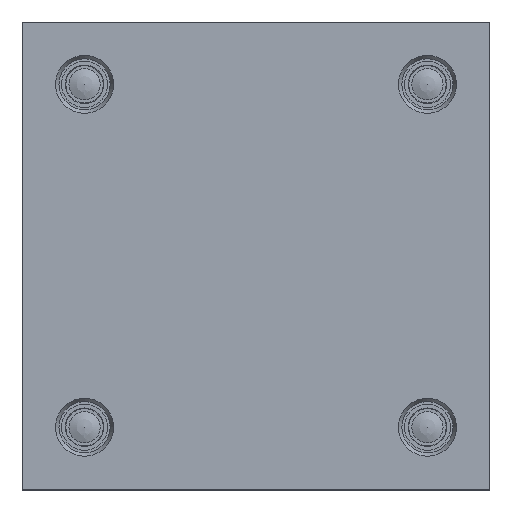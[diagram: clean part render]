
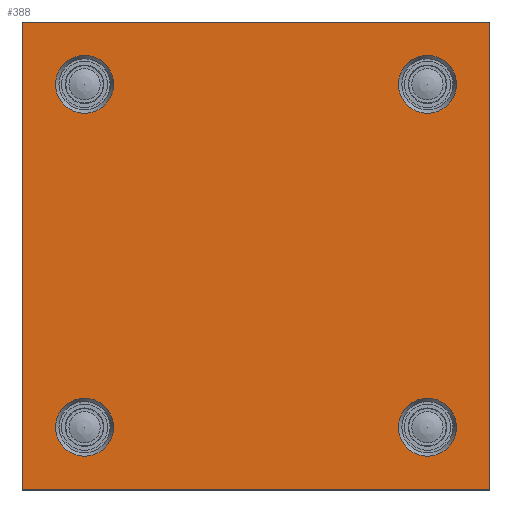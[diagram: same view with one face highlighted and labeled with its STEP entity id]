
A CAD part, top view. The second image highlights one B-rep face of the part: STEP entity #388.
In plain terms, the highlighted planar face has unit normal (0, 0, 1).
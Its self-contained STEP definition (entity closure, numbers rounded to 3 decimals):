
#388 = ADVANCED_FACE( '', ( #905, #906, #907, #908, #909 ), #910, .F. );
#905 = FACE_BOUND( '', #1643, .T. );
#906 = FACE_BOUND( '', #1644, .T. );
#907 = FACE_BOUND( '', #1645, .T. );
#908 = FACE_BOUND( '', #1646, .T. );
#909 = FACE_OUTER_BOUND( '', #1647, .T. );
#910 = PLANE( '', #1648 );
#1643 = EDGE_LOOP( '', ( #2560 ) );
#1644 = EDGE_LOOP( '', ( #2561 ) );
#1645 = EDGE_LOOP( '', ( #2562 ) );
#1646 = EDGE_LOOP( '', ( #2563 ) );
#1647 = EDGE_LOOP( '', ( #2564, #2565, #2566, #2567 ) );
#1648 = AXIS2_PLACEMENT_3D( '', #2568, #2569, #2570 );
#2560 = ORIENTED_EDGE( '', *, *, #4130, .T. );
#2561 = ORIENTED_EDGE( '', *, *, #4093, .T. );
#2562 = ORIENTED_EDGE( '', *, *, #4131, .T. );
#2563 = ORIENTED_EDGE( '', *, *, #4132, .T. );
#2564 = ORIENTED_EDGE( '', *, *, #4133, .T. );
#2565 = ORIENTED_EDGE( '', *, *, #4134, .F. );
#2566 = ORIENTED_EDGE( '', *, *, #4135, .F. );
#2567 = ORIENTED_EDGE( '', *, *, #4136, .T. );
#2568 = CARTESIAN_POINT( '', ( -75., 75., 0. ) );
#2569 = DIRECTION( '', ( 0., 0., -1. ) );
#2570 = DIRECTION( '', ( -1., 0., 0. ) );
#4093 = EDGE_CURVE( '', #4855, #4855, #4856, .T. );
#4130 = EDGE_CURVE( '', #4915, #4915, #4916, .T. );
#4131 = EDGE_CURVE( '', #4917, #4917, #4918, .T. );
#4132 = EDGE_CURVE( '', #4919, #4919, #4920, .T. );
#4133 = EDGE_CURVE( '', #4921, #4922, #4923, .T. );
#4134 = EDGE_CURVE( '', #4924, #4922, #4925, .T. );
#4135 = EDGE_CURVE( '', #4926, #4924, #4927, .T. );
#4136 = EDGE_CURVE( '', #4926, #4921, #4928, .T. );
#4855 = VERTEX_POINT( '', #5893 );
#4856 = CIRCLE( '', #5894, 9.3 );
#4915 = VERTEX_POINT( '', #5970 );
#4916 = CIRCLE( '', #5971, 9.3 );
#4917 = VERTEX_POINT( '', #5972 );
#4918 = CIRCLE( '', #5973, 9.3 );
#4919 = VERTEX_POINT( '', #5974 );
#4920 = CIRCLE( '', #5975, 9.3 );
#4921 = VERTEX_POINT( '', #5976 );
#4922 = VERTEX_POINT( '', #5977 );
#4923 = LINE( '', #5978, #5979 );
#4924 = VERTEX_POINT( '', #5980 );
#4925 = LINE( '', #5981, #5982 );
#4926 = VERTEX_POINT( '', #5983 );
#4927 = LINE( '', #5984, #5985 );
#4928 = LINE( '', #5986, #5987 );
#5893 = CARTESIAN_POINT( '', ( 45.7, -55., 0. ) );
#5894 = AXIS2_PLACEMENT_3D( '', #6979, #6980, #6981 );
#5970 = CARTESIAN_POINT( '', ( -64.3, 55., 0. ) );
#5971 = AXIS2_PLACEMENT_3D( '', #7032, #7033, #7034 );
#5972 = CARTESIAN_POINT( '', ( -64.3, -55., 0. ) );
#5973 = AXIS2_PLACEMENT_3D( '', #7035, #7036, #7037 );
#5974 = CARTESIAN_POINT( '', ( 45.7, 55., 0. ) );
#5975 = AXIS2_PLACEMENT_3D( '', #7038, #7039, #7040 );
#5976 = CARTESIAN_POINT( '', ( -75., -75., 0. ) );
#5977 = CARTESIAN_POINT( '', ( 75., -75., 0. ) );
#5978 = CARTESIAN_POINT( '', ( -75., -75., 0. ) );
#5979 = VECTOR( '', #7041, 1000. );
#5980 = CARTESIAN_POINT( '', ( 75., 75., 0. ) );
#5981 = CARTESIAN_POINT( '', ( 75., 75., 0. ) );
#5982 = VECTOR( '', #7042, 1000. );
#5983 = CARTESIAN_POINT( '', ( -75., 75., 0. ) );
#5984 = CARTESIAN_POINT( '', ( -75., 75., 0. ) );
#5985 = VECTOR( '', #7043, 1000. );
#5986 = CARTESIAN_POINT( '', ( -75., 75., 0. ) );
#5987 = VECTOR( '', #7044, 1000. );
#6979 = CARTESIAN_POINT( '', ( 55., -55., 0. ) );
#6980 = DIRECTION( '', ( 0., 0., -1. ) );
#6981 = DIRECTION( '', ( -1., 0., 0. ) );
#7032 = CARTESIAN_POINT( '', ( -55., 55., 0. ) );
#7033 = DIRECTION( '', ( 0., 0., -1. ) );
#7034 = DIRECTION( '', ( -1., 0., 0. ) );
#7035 = CARTESIAN_POINT( '', ( -55., -55., 0. ) );
#7036 = DIRECTION( '', ( 0., 0., -1. ) );
#7037 = DIRECTION( '', ( -1., 0., 0. ) );
#7038 = CARTESIAN_POINT( '', ( 55., 55., 0. ) );
#7039 = DIRECTION( '', ( 0., 0., -1. ) );
#7040 = DIRECTION( '', ( -1., 0., 0. ) );
#7041 = DIRECTION( '', ( 1., 0., 0. ) );
#7042 = DIRECTION( '', ( 0., -1., 0. ) );
#7043 = DIRECTION( '', ( 1., 0., 0. ) );
#7044 = DIRECTION( '', ( 0., -1., 0. ) );
